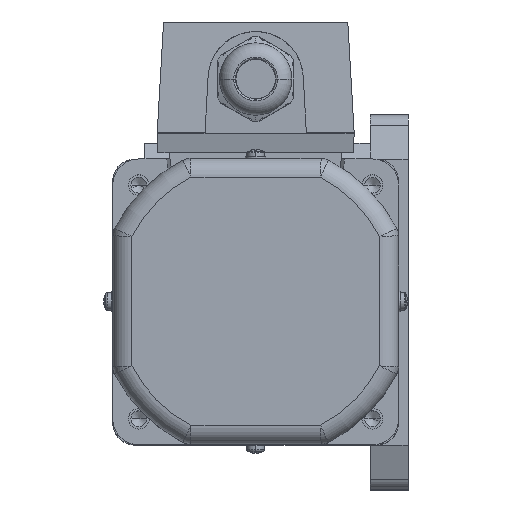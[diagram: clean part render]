
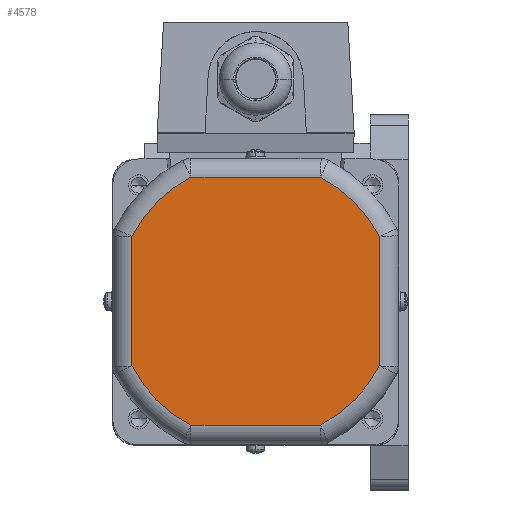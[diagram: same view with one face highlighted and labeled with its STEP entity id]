
A CAD part, top view. The second image highlights one B-rep face of the part: STEP entity #4578.
In plain terms, the highlighted planar face has unit normal (0, 0, 1).
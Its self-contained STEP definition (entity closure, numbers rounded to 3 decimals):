
#59 = DIRECTION ( 'NONE',  ( 0., 0., 1. ) ) ;
#157 = DIRECTION ( 'NONE',  ( -1., 0., 0. ) ) ;
#1096 = CARTESIAN_POINT ( 'NONE',  ( -39., -20.616, 135. ) ) ;
#1886 = VERTEX_POINT ( 'NONE', #19138 ) ;
#2160 = VERTEX_POINT ( 'NONE', #15732 ) ;
#2319 = ORIENTED_EDGE ( 'NONE', *, *, #9147, .T. ) ;
#2345 = ORIENTED_EDGE ( 'NONE', *, *, #10301, .T. ) ;
#2384 = EDGE_CURVE ( 'NONE', #8207, #2160, #6693, .T. ) ;
#2605 = LINE ( 'NONE', #1096, #14367 ) ;
#2681 = LINE ( 'NONE', #15418, #8316 ) ;
#2865 = LINE ( 'NONE', #5888, #4492 ) ;
#3096 = VECTOR ( 'NONE', #157, 1000. ) ;
#3317 = ORIENTED_EDGE ( 'NONE', *, *, #16900, .T. ) ;
#3478 = DIRECTION ( 'NONE',  ( 0., 0., 1. ) ) ;
#3593 = VERTEX_POINT ( 'NONE', #3626 ) ;
#3626 = CARTESIAN_POINT ( 'NONE',  ( 20.372, -39., 135. ) ) ;
#3755 = AXIS2_PLACEMENT_3D ( 'NONE', #11021, #59, #14223 ) ;
#4300 = DIRECTION ( 'NONE',  ( 0., 1., 0. ) ) ;
#4492 = VECTOR ( 'NONE', #16351, 1000. ) ;
#4578 = ADVANCED_FACE ( 'NONE', ( #15090 ), #10880, .T. ) ;
#4679 = ORIENTED_EDGE ( 'NONE', *, *, #15527, .T. ) ;
#5792 = ORIENTED_EDGE ( 'NONE', *, *, #2384, .T. ) ;
#5888 = CARTESIAN_POINT ( 'NONE',  ( 20.616, -39., 135. ) ) ;
#5941 = CIRCLE ( 'NONE', #12993, 44. ) ;
#6631 = VERTEX_POINT ( 'NONE', #11728 ) ;
#6646 = CIRCLE ( 'NONE', #3755, 44. ) ;
#6693 = CIRCLE ( 'NONE', #17930, 44. ) ;
#7603 = DIRECTION ( 'NONE',  ( 1., 0., 0. ) ) ;
#7699 = ORIENTED_EDGE ( 'NONE', *, *, #14057, .T. ) ;
#8055 = ORIENTED_EDGE ( 'NONE', *, *, #8287, .T. ) ;
#8207 = VERTEX_POINT ( 'NONE', #10620 ) ;
#8287 = EDGE_CURVE ( 'NONE', #3593, #19356, #19109, .T. ) ;
#8316 = VECTOR ( 'NONE', #4300, 1000. ) ;
#8670 = AXIS2_PLACEMENT_3D ( 'NONE', #17017, #9375, #13988 ) ;
#9147 = EDGE_CURVE ( 'NONE', #1886, #11921, #5941, .T. ) ;
#9375 = DIRECTION ( 'NONE',  ( 0., 0., 1. ) ) ;
#10301 = EDGE_CURVE ( 'NONE', #11921, #8207, #2605, .T. ) ;
#10562 = VERTEX_POINT ( 'NONE', #14644 ) ;
#10620 = CARTESIAN_POINT ( 'NONE',  ( -39., -20.372, 135. ) ) ;
#10880 = PLANE ( 'NONE',  #8670 ) ;
#11021 = CARTESIAN_POINT ( 'NONE',  ( 0., 0., 135. ) ) ;
#11728 = CARTESIAN_POINT ( 'NONE',  ( 39., 20.372, 135. ) ) ;
#11921 = VERTEX_POINT ( 'NONE', #16666 ) ;
#12533 = CARTESIAN_POINT ( 'NONE',  ( -20.616, 39., 135. ) ) ;
#12793 = CARTESIAN_POINT ( 'NONE',  ( 39., -20.372, 135. ) ) ;
#12993 = AXIS2_PLACEMENT_3D ( 'NONE', #13935, #3478, #7603 ) ;
#13935 = CARTESIAN_POINT ( 'NONE',  ( 0., 0., 135. ) ) ;
#13988 = DIRECTION ( 'NONE',  ( 1., 0., 0. ) ) ;
#14057 = EDGE_CURVE ( 'NONE', #19356, #6631, #2681, .T. ) ;
#14223 = DIRECTION ( 'NONE',  ( 1., 0., 0. ) ) ;
#14276 = AXIS2_PLACEMENT_3D ( 'NONE', #19366, #19557, #19265 ) ;
#14297 = CARTESIAN_POINT ( 'NONE',  ( 0., 0., 135. ) ) ;
#14367 = VECTOR ( 'NONE', #19223, 1000. ) ;
#14644 = CARTESIAN_POINT ( 'NONE',  ( 20.372, 39., 135. ) ) ;
#15090 = FACE_OUTER_BOUND ( 'NONE', #15507, .T. ) ;
#15238 = ORIENTED_EDGE ( 'NONE', *, *, #17010, .T. ) ;
#15418 = CARTESIAN_POINT ( 'NONE',  ( 39., 20.616, 135. ) ) ;
#15507 = EDGE_LOOP ( 'NONE', ( #7699, #15238, #3317, #2319, #2345, #5792, #4679, #8055 ) ) ;
#15527 = EDGE_CURVE ( 'NONE', #2160, #3593, #2865, .T. ) ;
#15732 = CARTESIAN_POINT ( 'NONE',  ( -20.372, -39., 135. ) ) ;
#16351 = DIRECTION ( 'NONE',  ( 1., 0., 0. ) ) ;
#16666 = CARTESIAN_POINT ( 'NONE',  ( -39., 20.372, 135. ) ) ;
#16900 = EDGE_CURVE ( 'NONE', #10562, #1886, #18459, .T. ) ;
#17010 = EDGE_CURVE ( 'NONE', #6631, #10562, #6646, .T. ) ;
#17017 = CARTESIAN_POINT ( 'NONE',  ( 0., 0., 135. ) ) ;
#17418 = DIRECTION ( 'NONE',  ( 1., 0., 0. ) ) ;
#17523 = DIRECTION ( 'NONE',  ( 0., 0., 1. ) ) ;
#17930 = AXIS2_PLACEMENT_3D ( 'NONE', #14297, #17523, #17418 ) ;
#18459 = LINE ( 'NONE', #12533, #3096 ) ;
#19109 = CIRCLE ( 'NONE', #14276, 44. ) ;
#19138 = CARTESIAN_POINT ( 'NONE',  ( -20.372, 39., 135. ) ) ;
#19223 = DIRECTION ( 'NONE',  ( 0., -1., 0. ) ) ;
#19265 = DIRECTION ( 'NONE',  ( 1., 0., 0. ) ) ;
#19356 = VERTEX_POINT ( 'NONE', #12793 ) ;
#19366 = CARTESIAN_POINT ( 'NONE',  ( 0., 0., 135. ) ) ;
#19557 = DIRECTION ( 'NONE',  ( 0., 0., 1. ) ) ;
